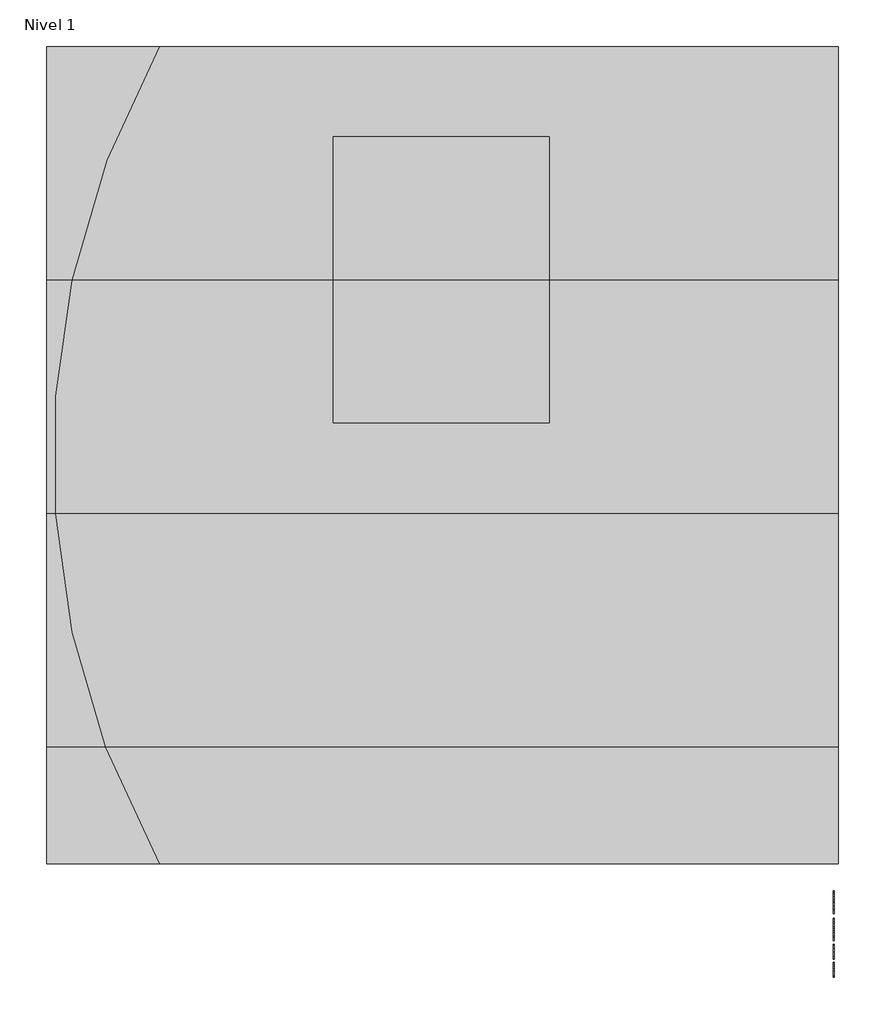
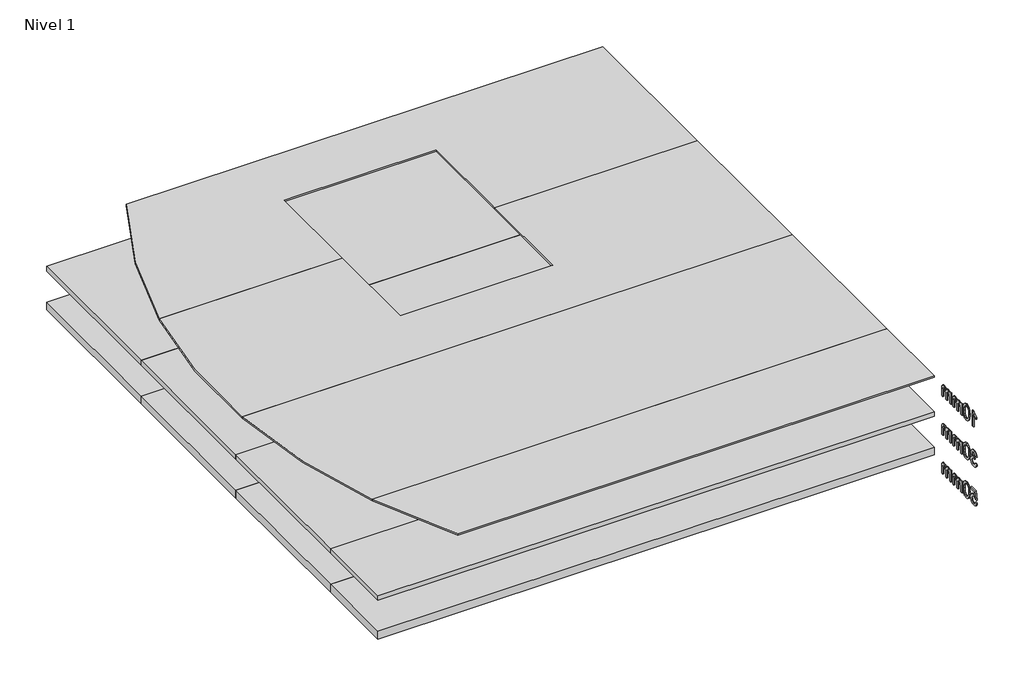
# One storey: 12 plates, 3 proxies.
"""IFC4 building model written with IfcOpenShell, lengths in millimetres."""

from ifc_helpers import new_model, si_unit, frame, origin, place, context, project, spatial, polyline, outline, extrude, transform, mapped, element, save
from components import panel_del_sistema_6634fb51, panel_del_sistema_deb14117, panel_del_sistema_68a6e451, panel_del_sistema_ad268808, panel_del_sistema_8b82735a, panel_del_sistema_39f9ac87, panel_del_sistema_3c2f56ea, panel_del_sistema_430cd98d

model = new_model("IFC4")

# Units and contexts
model_context = context("Model", 3, world=origin())
ifc_project = project(units=[si_unit("LENGTHUNIT", "METRE", prefix="MILLI")], contexts=[model_context])

# Site, building, storey
site = spatial("IfcSite", under=ifc_project)
building = spatial("IfcBuilding", under=site)
storey = spatial("IfcBuildingStorey", under=building, Name="Nivel 1", Elevation=0.0)

# Proxies
placement = place(None, origin())
element("IfcBuildingElementProxy", 1, Name="100mm Arial", ObjectType="100mm Arial", at=placement, inside=storey, context=model_context, shape_type="SweptSolid", body=[
    extrude(outline(polyline([(14811.6332666, -290.4578656), (14824.1903054, -288.8882358), (14831.1187496, -302.1074622), (14844.0804586, -306.1541641), (14852.6888973, -304.7623439), (14859.3352987, -300.5868832), (14865.0006814, -286.8035712), (14859.3843496, -273.8173367), (14845.1105282, -268.6792515), (14836.3058858, -270.0526776), (14837.7038373, -257.4956389), (14839.7149256, -257.6427917), (14853.9642215, -254.0375481), (14858.7098993, -249.4635487), (14860.2917918, -242.9520373), (14855.7055296, -233.1295881), (14843.8842549, -229.2423016), (14831.9158273, -233.1663763), (14825.7599352, -244.9386001), (14813.2028965, -243.3689703), (14816.9001105, -232.0933871), (14823.4790669, -223.6750208), (14832.479913, -218.4327024), (14843.4427965, -216.6852629), (14858.5872719, -220.1310909), (14869.1822734, -229.54887), (14872.8488306, -242.2162733), (14869.3662144, -253.7922935), (14859.0655185, -262.1064266), (14872.7507287, -270.6903398), (14877.5577201, -287.0243004), (14875.1542244, -299.2625081), (14867.9437373, -309.4896275), (14857.0605616, -316.405809), (14843.6390002, -318.7112029), (14831.4988943, -316.7430342), (14821.6151314, -310.8385282), (14814.7418695, -301.8070252), (14811.6332666, -290.4578656)])), frame((9557.0230098, 0.0, 0.0), z_axis=(1.0, 0.0, 0.0), x_axis=(0.0, 1.0, 0.0)), (0.0, 0.0, 1.0), 5.0),
    extrude(outline(polyline([(14888.5451291, -267.7227583), (14892.2362118, -238.8194963), (14903.1990952, -222.1544419), (14921.5073558, -216.6852629), (14936.1735847, -219.9226244), (14946.3026023, -229.2545644), (14952.1887142, -244.116997), (14954.4695826, -267.7227583), (14950.8152881, -296.5033931), (14939.8891929, -313.2052357), (14931.6578332, -317.3347111), (14921.5073558, -318.7112029), (14908.4598077, -316.3199699), (14898.5515193, -309.146271), (14891.0467266, -292.1562542), (14888.5451291, -267.7227583)]), holes=[polyline([(14901.1021678, -267.6982329), (14902.5736958, -287.4504303), (14906.9882798, -298.8823633), (14913.5611047, -304.3362139), (14921.5073558, -306.1541641), (14929.4536069, -304.3300825), (14936.0264319, -298.8578379), (14940.4410159, -287.4197735), (14941.9125438, -267.6982329), (14940.4900668, -248.3905595), (14936.2226356, -236.8697217), (14929.6620734, -231.1491567), (14921.360203, -229.2423016), (14913.4997911, -230.9222961), (14907.1844835, -235.9622794), (14902.6227467, -248.2004871), (14901.1021678, -267.6982329)])]), frame((9557.0230098, 0.0, 0.0), z_axis=(1.0, 0.0, 0.0), x_axis=(0.0, 1.0, 0.0)), (0.0, 0.0, 1.0), 5.0),
    extrude(outline(polyline([(14968.5962512, -317.141573), (14968.5962512, -243.3689703), (14981.15329, -243.3689703), (14981.15329, -255.5090761), (14989.7862541, -245.5639995), (15002.0735128, -241.7993404), (15014.655077, -245.6375759), (15021.5712585, -256.3919929), (15031.3691823, -245.4475035), (15043.7422801, -241.7993404), (15053.181519, -243.3168536), (15060.1620798, -247.8693933), (15064.4754962, -255.5795868), (15065.9133017, -266.5700614), (15065.9133017, -317.141573), (15053.3562629, -317.141573), (15053.3562629, -271.965664), (15052.1913033, -261.4810272), (15047.972923, -256.3184165), (15040.7992241, -254.3563792), (15028.4506518, -259.3840998), (15024.7626348, -265.9262679), (15023.5332958, -275.4973312), (15023.5332958, -317.141573), (15010.9762571, -317.141573), (15010.9762571, -270.5677124), (15008.0699893, -258.4030811), (14998.5418456, -254.3563792), (14989.2466939, -257.0541805), (14983.0662764, -264.9513806), (14981.15329, -279.9364406), (14981.15329, -317.141573), (14968.5962512, -317.141573)])), frame((9557.0230098, 0.0, 0.0), z_axis=(1.0, 0.0, 0.0), x_axis=(0.0, 1.0, 0.0)), (0.0, 0.0, 1.0), 5.0),
    extrude(outline(polyline([(15084.7488598, -317.141573), (15084.7488598, -243.3689703), (15097.3058986, -243.3689703), (15097.3058986, -255.5090761), (15105.9388628, -245.5639995), (15118.2261214, -241.7993404), (15130.8076856, -245.6375759), (15137.7238671, -256.3919929), (15147.5217909, -245.4475035), (15159.8948887, -241.7993404), (15169.3341276, -243.3168536), (15176.3146884, -247.8693933), (15180.6281048, -255.5795868), (15182.0659103, -266.5700614), (15182.0659103, -317.141573), (15169.5088715, -317.141573), (15169.5088715, -271.965664), (15168.3439119, -261.4810272), (15164.1255317, -256.3184165), (15156.9518327, -254.3563792), (15144.6032604, -259.3840998), (15140.9152434, -265.9262679), (15139.6859044, -275.4973312), (15139.6859044, -317.141573), (15127.1288657, -317.141573), (15127.1288657, -270.5677124), (15124.2225979, -258.4030811), (15114.6944542, -254.3563792), (15105.3993025, -257.0541805), (15099.218885, -264.9513806), (15097.3058986, -279.9364406), (15097.3058986, -317.141573), (15084.7488598, -317.141573)])), frame((9557.0230098, 0.0, 0.0), z_axis=(1.0, 0.0, 0.0), x_axis=(0.0, 1.0, 0.0)), (0.0, 0.0, 1.0), 5.0),
])
element("IfcBuildingElementProxy", 2, Name="100mm Arial", ObjectType="100mm Arial", at=placement, inside=storey, context=model_context, shape_type="SweptSolid", body=[
    extrude(outline(polyline([(14811.6332666, -540.4578656), (14824.1903054, -538.8882358), (14830.5178757, -551.8254193), (14843.6390002, -556.1541641), (14852.6398463, -554.6489136), (14859.3843496, -550.1331621), (14863.5965984, -543.1280758), (14865.0006814, -534.1548208), (14859.7399688, -519.2433373), (14853.1334213, -515.141453), (14843.8352039, -513.7741583), (14832.8110068, -515.9569248), (14825.7599352, -521.6223075), (14813.2028965, -520.0526776), (14824.1903054, -468.2548927), (14872.8488306, -468.2548927), (14872.8488306, -480.8119315), (14834.3438484, -480.8119315), (14828.9727713, -508.4766575), (14837.9429606, -503.032004), (14847.3423456, -501.2171195), (14859.0747156, -503.467331), (14868.8143914, -510.2179656), (14875.371888, -520.5063988), (14877.5577201, -533.3700059), (14875.5895515, -545.9270446), (14869.6850454, -556.6691989), (14858.3788055, -565.7007019), (14843.5899493, -568.7112029), (14831.2567054, -566.7767567), (14821.4311904, -560.9734182), (14814.6958842, -551.9756378), (14811.6332666, -540.4578656)])), frame((9557.0230098, 0.0, 0.0), z_axis=(1.0, 0.0, 0.0), x_axis=(0.0, 1.0, 0.0)), (0.0, 0.0, 1.0), 5.0),
    extrude(outline(polyline([(14888.5451291, -517.7227583), (14892.2362118, -488.8194963), (14903.1990952, -472.1544419), (14921.5073558, -466.6852629), (14936.1735847, -469.9226244), (14946.3026023, -479.2545644), (14952.1887142, -494.116997), (14954.4695826, -517.7227583), (14950.8152881, -546.5033931), (14939.8891929, -563.2052357), (14931.6578332, -567.3347111), (14921.5073558, -568.7112029), (14908.4598077, -566.3199699), (14898.5515193, -559.146271), (14891.0467266, -542.1562542), (14888.5451291, -517.7227583)]), holes=[polyline([(14901.1021678, -517.6982329), (14902.5736958, -537.4504303), (14906.9882798, -548.8823633), (14913.5611047, -554.3362139), (14921.5073558, -556.1541641), (14929.4536069, -554.3300825), (14936.0264319, -548.8578379), (14940.4410159, -537.4197735), (14941.9125438, -517.6982329), (14940.4900668, -498.3905595), (14936.2226356, -486.8697217), (14929.6620734, -481.1491567), (14921.360203, -479.2423016), (14913.4997911, -480.9222961), (14907.1844835, -485.9622794), (14902.6227467, -498.2004871), (14901.1021678, -517.6982329)])]), frame((9557.0230098, 0.0, 0.0), z_axis=(1.0, 0.0, 0.0), x_axis=(0.0, 1.0, 0.0)), (0.0, 0.0, 1.0), 5.0),
    extrude(outline(polyline([(14968.5962512, -567.141573), (14968.5962512, -493.3689703), (14981.15329, -493.3689703), (14981.15329, -505.5090761), (14989.7862541, -495.5639995), (15002.0735128, -491.7993404), (15014.655077, -495.6375759), (15021.5712585, -506.3919929), (15031.3691823, -495.4475035), (15043.7422801, -491.7993404), (15053.181519, -493.3168536), (15060.1620798, -497.8693933), (15064.4754962, -505.5795868), (15065.9133017, -516.5700614), (15065.9133017, -567.141573), (15053.3562629, -567.141573), (15053.3562629, -521.965664), (15052.1913033, -511.4810272), (15047.972923, -506.3184165), (15040.7992241, -504.3563792), (15028.4506518, -509.3840998), (15024.7626348, -515.9262679), (15023.5332958, -525.4973312), (15023.5332958, -567.141573), (15010.9762571, -567.141573), (15010.9762571, -520.5677124), (15008.0699893, -508.4030811), (14998.5418456, -504.3563792), (14989.2466939, -507.0541805), (14983.0662764, -514.9513806), (14981.15329, -529.9364406), (14981.15329, -567.141573), (14968.5962512, -567.141573)])), frame((9557.0230098, 0.0, 0.0), z_axis=(1.0, 0.0, 0.0), x_axis=(0.0, 1.0, 0.0)), (0.0, 0.0, 1.0), 5.0),
    extrude(outline(polyline([(15084.7488598, -567.141573), (15084.7488598, -493.3689703), (15097.3058986, -493.3689703), (15097.3058986, -505.5090761), (15105.9388628, -495.5639995), (15118.2261214, -491.7993404), (15130.8076856, -495.6375759), (15137.7238671, -506.3919929), (15147.5217909, -495.4475035), (15159.8948887, -491.7993404), (15169.3341276, -493.3168536), (15176.3146884, -497.8693933), (15180.6281048, -505.5795868), (15182.0659103, -516.5700614), (15182.0659103, -567.141573), (15169.5088715, -567.141573), (15169.5088715, -521.965664), (15168.3439119, -511.4810272), (15164.1255317, -506.3184165), (15156.9518327, -504.3563792), (15144.6032604, -509.3840998), (15140.9152434, -515.9262679), (15139.6859044, -525.4973312), (15139.6859044, -567.141573), (15127.1288657, -567.141573), (15127.1288657, -520.5677124), (15124.2225979, -508.4030811), (15114.6944542, -504.3563792), (15105.3993025, -507.0541805), (15099.218885, -514.9513806), (15097.3058986, -529.9364406), (15097.3058986, -567.141573), (15084.7488598, -567.141573)])), frame((9557.0230098, 0.0, 0.0), z_axis=(1.0, 0.0, 0.0), x_axis=(0.0, 1.0, 0.0)), (0.0, 0.0, 1.0), 5.0),
])
element("IfcBuildingElementProxy", 3, Name="100mm Arial", ObjectType="100mm Arial", at=placement, inside=storey, context=model_context, shape_type="SweptSolid", body=[
    extrude(outline(polyline([(14858.722162, -67.1443493), (14846.1651232, -67.1443493), (14846.1651232, 11.1409393), (14834.270272, 2.6673906), (14821.0510457, -3.6724424), (14821.0510457, 8.1978833), (14839.4574082, 19.9455817), (14850.6287581, 33.3119608), (14858.722162, 33.3119608), (14858.722162, -67.1443493)])), frame((9557.0230098, 0.0, 0.0), z_axis=(1.0, 0.0, 0.0), x_axis=(0.0, 1.0, 0.0)), (0.0, 0.0, 1.0), 5.0),
    extrude(outline(polyline([(14888.5451291, -17.7255346), (14892.2362118, 11.1777275), (14903.1990952, 27.8427818), (14921.5073558, 33.3119608), (14936.1735847, 30.0745993), (14946.3026023, 20.7426593), (14952.1887142, 5.8802267), (14954.4695826, -17.7255346), (14950.8152881, -46.5061694), (14939.8891929, -63.208012), (14931.6578332, -67.3374874), (14921.5073558, -68.7139792), (14908.4598077, -66.3227462), (14898.5515193, -59.1490473), (14891.0467266, -42.1590305), (14888.5451291, -17.7255346)]), holes=[polyline([(14901.1021678, -17.7010092), (14902.5736958, -37.4532066), (14906.9882798, -48.8851396), (14913.5611047, -54.3389902), (14921.5073558, -56.1569404), (14929.4536069, -54.3328588), (14936.0264319, -48.8606142), (14940.4410159, -37.4225498), (14941.9125438, -17.7010092), (14940.4900668, 1.6066642), (14936.2226356, 13.127502), (14929.6620734, 18.8480671), (14921.360203, 20.7549221), (14913.4997911, 19.0749276), (14907.1844835, 14.0349443), (14902.6227467, 1.7967366), (14901.1021678, -17.7010092)])]), frame((9557.0230098, 0.0, 0.0), z_axis=(1.0, 0.0, 0.0), x_axis=(0.0, 1.0, 0.0)), (0.0, 0.0, 1.0), 5.0),
    extrude(outline(polyline([(14968.5962512, -67.1443493), (14968.5962512, 6.6282534), (14981.15329, 6.6282534), (14981.15329, -5.5118524), (14989.7862541, 4.4332242), (15002.0735128, 8.1978833), (15014.655077, 4.3596478), (15021.5712585, -6.3947692), (15031.3691823, 4.5497202), (15043.7422801, 8.1978833), (15053.181519, 6.6803701), (15060.1620798, 2.1278304), (15064.4754962, -5.5823631), (15065.9133017, -16.5728377), (15065.9133017, -67.1443493), (15053.3562629, -67.1443493), (15053.3562629, -21.9684403), (15052.1913033, -11.4838035), (15047.972923, -6.3211928), (15040.7992241, -4.3591555), (15028.4506518, -9.3868761), (15024.7626348, -15.9290442), (15023.5332958, -25.5001075), (15023.5332958, -67.1443493), (15010.9762571, -67.1443493), (15010.9762571, -20.5704887), (15008.0699893, -8.4058574), (14998.5418456, -4.3591555), (14989.2466939, -7.0569568), (14983.0662764, -14.9541569), (14981.15329, -29.9392169), (14981.15329, -67.1443493), (14968.5962512, -67.1443493)])), frame((9557.0230098, 0.0, 0.0), z_axis=(1.0, 0.0, 0.0), x_axis=(0.0, 1.0, 0.0)), (0.0, 0.0, 1.0), 5.0),
    extrude(outline(polyline([(15084.7488598, -67.1443493), (15084.7488598, 6.6282534), (15097.3058986, 6.6282534), (15097.3058986, -5.5118524), (15105.9388628, 4.4332242), (15118.2261214, 8.1978833), (15130.8076856, 4.3596478), (15137.7238671, -6.3947692), (15147.5217909, 4.5497202), (15159.8948887, 8.1978833), (15169.3341276, 6.6803701), (15176.3146884, 2.1278304), (15180.6281048, -5.5823631), (15182.0659103, -16.5728377), (15182.0659103, -67.1443493), (15169.5088715, -67.1443493), (15169.5088715, -21.9684403), (15168.3439119, -11.4838035), (15164.1255317, -6.3211928), (15156.9518327, -4.3591555), (15144.6032604, -9.3868761), (15140.9152434, -15.9290442), (15139.6859044, -25.5001075), (15139.6859044, -67.1443493), (15127.1288657, -67.1443493), (15127.1288657, -20.5704887), (15124.2225979, -8.4058574), (15114.6944542, -4.3591555), (15105.3993025, -7.0569568), (15099.218885, -14.9541569), (15097.3058986, -29.9392169), (15097.3058986, -67.1443493), (15084.7488598, -67.1443493)])), frame((9557.0230098, 0.0, 0.0), z_axis=(1.0, 0.0, 0.0), x_axis=(0.0, 1.0, 0.0)), (0.0, 0.0, 1.0), 5.0),
])

# Plates
panel_del_sistema_shape = panel_del_sistema_6634fb51(model_context)
element("IfcPlate", 4, ObjectType="Panel del sistema : HIANSA PANEL - PANELES DE CUBIERTA SIN TAPAJUNTA - EASY AGRO 5GR - Esp. 50mm", at=placement, inside=storey, context=model_context, shape_type="MappedRepresentation", body=[
    mapped(panel_del_sistema_shape, transform((9579.0356399, 18298.3330794, -529.5962409), x_axis=(0.0, -1.0, 0.0), y_axis=(0.0, 0.0, 1.0), z_axis=(-1.0, 0.0, 0.0))),
])
element("IfcPlate", 5, ObjectType="Panel del sistema : HIANSA PANEL - PANELES DE CUBIERTA SIN TAPAJUNTA - EASY AGRO 5GR - Esp. 50mm", at=placement, inside=storey, context=model_context, shape_type="MappedRepresentation", body=[
    mapped(panel_del_sistema_shape, transform((9579.0356399, 17298.3330793, -529.5962409), x_axis=(0.0, -1.0, 0.0), y_axis=(0.0, 0.0, 1.0), z_axis=(-1.0, 0.0, 0.0))),
])
element("IfcPlate", 6, ObjectType="Panel del sistema : HIANSA PANEL - PANELES DE CUBIERTA SIN TAPAJUNTA - EASY AGRO 5GR - Esp. 50mm", at=placement, inside=storey, context=model_context, shape_type="MappedRepresentation", body=[
    mapped(panel_del_sistema_shape, transform((9579.0356399, 16298.3330793, -529.5962409), x_axis=(0.0, -1.0, 0.0), y_axis=(0.0, 0.0, 1.0), z_axis=(-1.0, 0.0, 0.0))),
])
panel_del_sistema_2_shape = panel_del_sistema_deb14117(model_context)
element("IfcPlate", 7, ObjectType="Panel del sistema : HIANSA PANEL - PANELES DE CUBIERTA SIN TAPAJUNTA - EASY AGRO 5GR - Esp. 50mm", at=placement, inside=storey, context=model_context, shape_type="MappedRepresentation", body=[
    mapped(panel_del_sistema_2_shape, transform((9579.0356399, 15548.3330794, -529.5962409), x_axis=(0.0, -1.0, 0.0), y_axis=(0.0, 0.0, 1.0), z_axis=(-1.0, 0.0, 0.0))),
])
panel_del_sistema_3_shape = panel_del_sistema_68a6e451(model_context)
element("IfcPlate", 8, ObjectType="Panel del sistema : HIANSA PANEL - PANELES DE CUBIERTA SIN TAPAJUNTA - EASY AGRO 5GR - Esp. 30mm", at=placement, inside=storey, context=model_context, shape_type="MappedRepresentation", body=[
    mapped(panel_del_sistema_3_shape, transform((9579.0356399, 18298.3330794, -279.5990172), x_axis=(0.0, -1.0, 0.0), y_axis=(0.0, 0.0, 1.0), z_axis=(-1.0, 0.0, 0.0))),
])
element("IfcPlate", 9, ObjectType="Panel del sistema : HIANSA PANEL - PANELES DE CUBIERTA SIN TAPAJUNTA - EASY AGRO 5GR - Esp. 30mm", at=placement, inside=storey, context=model_context, shape_type="MappedRepresentation", body=[
    mapped(panel_del_sistema_3_shape, transform((9579.0356399, 17298.3330793, -279.5990172), x_axis=(0.0, -1.0, 0.0), y_axis=(0.0, 0.0, 1.0), z_axis=(-1.0, 0.0, 0.0))),
])
element("IfcPlate", 10, ObjectType="Panel del sistema : HIANSA PANEL - PANELES DE CUBIERTA SIN TAPAJUNTA - EASY AGRO 5GR - Esp. 30mm", at=placement, inside=storey, context=model_context, shape_type="MappedRepresentation", body=[
    mapped(panel_del_sistema_3_shape, transform((9579.0356399, 16298.3330793, -279.5990172), x_axis=(0.0, -1.0, 0.0), y_axis=(0.0, 0.0, 1.0), z_axis=(-1.0, 0.0, 0.0))),
])
panel_del_sistema_4_shape = panel_del_sistema_ad268808(model_context)
element("IfcPlate", 11, ObjectType="Panel del sistema : HIANSA PANEL - PANELES DE CUBIERTA SIN TAPAJUNTA - EASY AGRO 5GR - Esp. 30mm", at=placement, inside=storey, context=model_context, shape_type="MappedRepresentation", body=[
    mapped(panel_del_sistema_4_shape, transform((9579.0356399, 15548.3330794, -279.5990172), x_axis=(0.0, -1.0, 0.0), y_axis=(0.0, 0.0, 1.0), z_axis=(-1.0, 0.0, 0.0))),
])
panel_del_sistema_5_shape = panel_del_sistema_8b82735a(model_context)
element("IfcPlate", 12, ObjectType="Panel del sistema : HIANSA PANEL - PANELES DE CUBIERTA SIN TAPAJUNTA - EASY AGRO 5GR - Esp. 10mm", at=placement, inside=storey, context=model_context, shape_type="MappedRepresentation", body=[
    mapped(panel_del_sistema_5_shape, transform((9579.0356399, 18298.3330794, -29.6017935), x_axis=(0.0, -1.0, 0.0), y_axis=(0.0, 0.0, 1.0), z_axis=(-1.0, 0.0, 0.0))),
])
panel_del_sistema_6_shape = panel_del_sistema_39f9ac87(model_context)
element("IfcPlate", 13, ObjectType="Panel del sistema : HIANSA PANEL - PANELES DE CUBIERTA SIN TAPAJUNTA - EASY AGRO 5GR - Esp. 10mm", at=placement, inside=storey, context=model_context, shape_type="MappedRepresentation", body=[
    mapped(panel_del_sistema_6_shape, transform((9579.0356399, 17298.3330793, -29.6017935), x_axis=(0.0, -1.0, 0.0), y_axis=(0.0, 0.0, 1.0), z_axis=(-1.0, 0.0, 0.0))),
])
panel_del_sistema_7_shape = panel_del_sistema_3c2f56ea(model_context)
element("IfcPlate", 14, ObjectType="Panel del sistema : HIANSA PANEL - PANELES DE CUBIERTA SIN TAPAJUNTA - EASY AGRO 5GR - Esp. 10mm", at=placement, inside=storey, context=model_context, shape_type="MappedRepresentation", body=[
    mapped(panel_del_sistema_7_shape, transform((9579.0356399, 16298.3330793, -29.6017935), x_axis=(0.0, -1.0, 0.0), y_axis=(0.0, 0.0, 1.0), z_axis=(-1.0, 0.0, 0.0))),
])
panel_del_sistema_8_shape = panel_del_sistema_430cd98d(model_context)
element("IfcPlate", 15, ObjectType="Panel del sistema : HIANSA PANEL - PANELES DE CUBIERTA SIN TAPAJUNTA - EASY AGRO 5GR - Esp. 10mm", at=placement, inside=storey, context=model_context, shape_type="MappedRepresentation", body=[
    mapped(panel_del_sistema_8_shape, transform((9579.0356399, 15548.3330794, -29.6017935), x_axis=(0.0, -1.0, 0.0), y_axis=(0.0, 0.0, 1.0), z_axis=(-1.0, 0.0, 0.0))),
])

save(model, "model.ifc")
